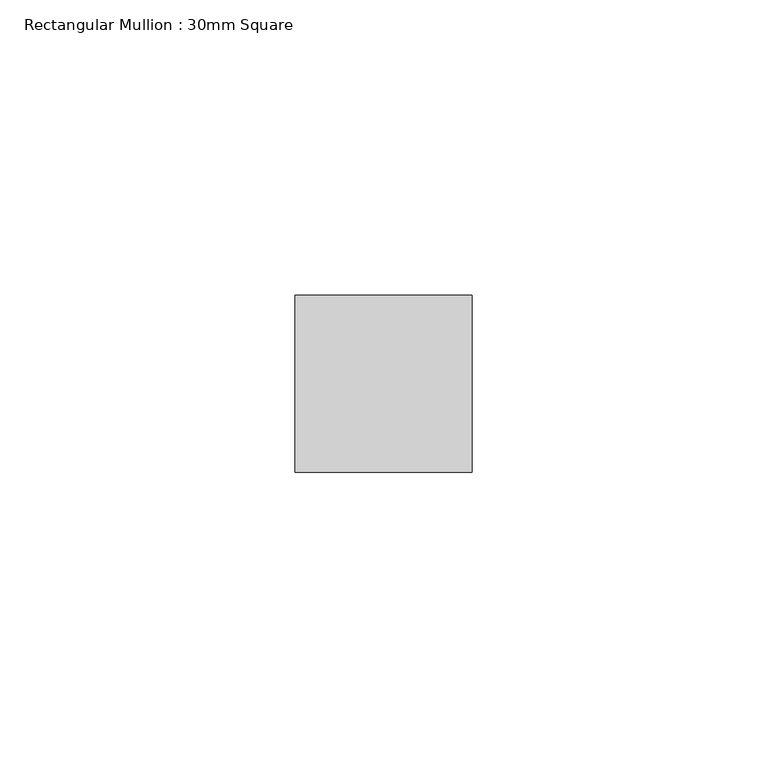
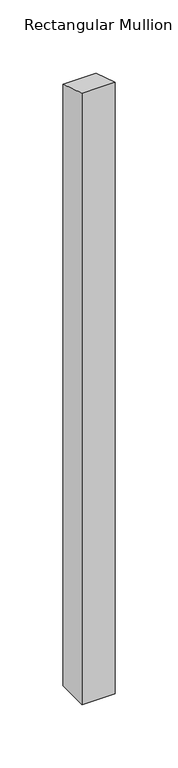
"""IFC4 building model written with IfcOpenShell, lengths in millimetres: member geometry, Rectangular Mullion : 30mm Square."""

from ifc_helpers import new_model, si_unit, frame, origin, place, context, project, spatial, polyline, outline, extrude, source, transform, mapped, element, save


def rectangular_mullion_30mm_square_f0c17284(model_context):
    return source(origin(), model_context, "Body", "SweptSolid", [
        extrude(outline(polyline([(-15.0, 4.8129514), (15.0, -4.8129514), (15.0, -585.1015074), (-15.0, -585.1015074), (-15.0, 4.8129514)])), frame((-15.0, 0.0, 0.0), z_axis=(1.0, 0.0, 0.0), x_axis=(0.0, 1.0, 0.0)), (0.0, 0.0, 1.0), 30.0),
    ])


if __name__ == "__main__":
    model = new_model("IFC4")
    model_context = context("Model", 3, world=origin())
    ifc_project = project(units=[si_unit("LENGTHUNIT", "METRE", prefix="MILLI")], contexts=[model_context])
    site = spatial("IfcSite", under=ifc_project)
    building = spatial("IfcBuilding", under=site)
    placement = place(None, origin())
    rectangular_mullion_30mm_square_shape = rectangular_mullion_30mm_square_f0c17284(model_context)
    element("IfcMember", 1, ObjectType="Rectangular Mullion : 30mm Square", at=placement, inside=building, context=model_context, shape_type="MappedRepresentation", body=[
        mapped(rectangular_mullion_30mm_square_shape, transform((0.0, 0.0, 0.0), x_axis=(1.0, 0.0, 0.0), y_axis=(0.0, 1.0, 0.0), z_axis=(0.0, 0.0, 1.0))),
    ])
    save(model, "model.ifc")
